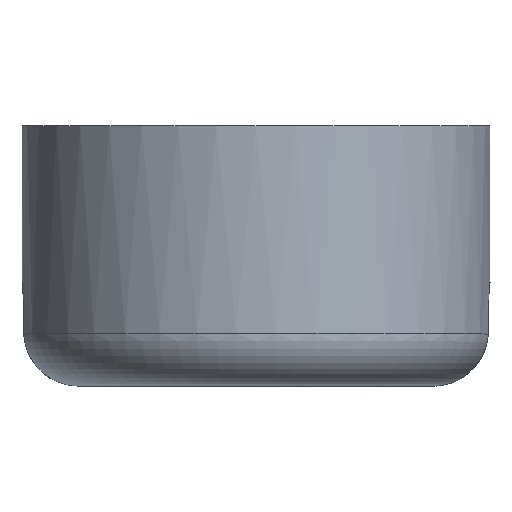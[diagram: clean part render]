
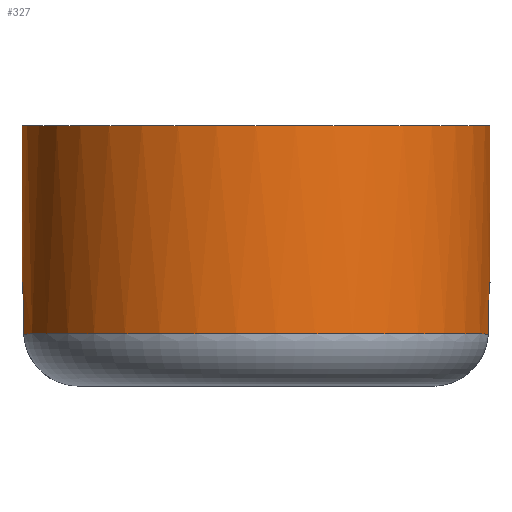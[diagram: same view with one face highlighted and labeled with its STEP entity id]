
A CAD part, top view. The second image highlights one B-rep face of the part: STEP entity #327.
In plain terms, the highlighted cylindrical face has radius 0.9 mm (diameter 1.8 mm), a full revolution.
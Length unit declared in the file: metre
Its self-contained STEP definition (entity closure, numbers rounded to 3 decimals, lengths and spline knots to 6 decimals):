
#12=CYLINDRICAL_SURFACE('',#469,0.0009);
#13=ELLIPSE('',#454,0.005183,0.0009);
#14=ELLIPSE('',#456,0.005183,0.0009);
#15=ELLIPSE('',#466,0.005183,0.0009);
#16=ELLIPSE('',#468,0.005183,0.0009);
#88=CIRCLE('',#446,0.0009);
#89=CIRCLE('',#458,0.0009);
#90=CIRCLE('',#459,0.0009);
#91=CIRCLE('',#462,0.0009);
#93=CIRCLE('',#470,0.0009);
#167=ORIENTED_EDGE('',*,*,#216,.F.);
#168=ORIENTED_EDGE('',*,*,#207,.F.);
#169=ORIENTED_EDGE('',*,*,#222,.F.);
#170=ORIENTED_EDGE('',*,*,#220,.F.);
#171=ORIENTED_EDGE('',*,*,#213,.T.);
#172=ORIENTED_EDGE('',*,*,#219,.F.);
#173=ORIENTED_EDGE('',*,*,#183,.F.);
#174=ORIENTED_EDGE('',*,*,#206,.F.);
#175=ORIENTED_EDGE('',*,*,#211,.T.);
#183=EDGE_CURVE('',#226,#223,#88,.T.);
#206=EDGE_CURVE('',#243,#226,#13,.T.);
#207=EDGE_CURVE('',#244,#245,#14,.T.);
#211=EDGE_CURVE('',#243,#245,#89,.T.);
#213=EDGE_CURVE('',#248,#247,#90,.T.);
#216=EDGE_CURVE('',#249,#249,#91,.T.);
#219=EDGE_CURVE('',#223,#247,#15,.T.);
#220=EDGE_CURVE('',#248,#251,#16,.T.);
#222=EDGE_CURVE('',#251,#244,#93,.T.);
#223=VERTEX_POINT('',#564);
#226=VERTEX_POINT('',#572);
#243=VERTEX_POINT('',#619);
#244=VERTEX_POINT('',#623);
#245=VERTEX_POINT('',#624);
#247=VERTEX_POINT('',#635);
#248=VERTEX_POINT('',#637);
#249=VERTEX_POINT('',#643);
#251=VERTEX_POINT('',#652);
#271=EDGE_LOOP('',(#167));
#272=EDGE_LOOP('',(#168,#169,#170,#171,#172,#173,#174,#175));
#289=FACE_BOUND('',#271,.T.);
#290=FACE_BOUND('',#272,.T.);
#327=ADVANCED_FACE('',(#289,#290),#12,.T.);
#446=AXIS2_PLACEMENT_3D('',#573,#478,#479);
#454=AXIS2_PLACEMENT_3D('',#620,#516,#517);
#456=AXIS2_PLACEMENT_3D('',#622,#520,#521);
#458=AXIS2_PLACEMENT_3D('',#633,#526,#527);
#459=AXIS2_PLACEMENT_3D('',#636,#529,#530);
#462=AXIS2_PLACEMENT_3D('',#642,#537,#538);
#466=AXIS2_PLACEMENT_3D('',#649,#546,#547);
#468=AXIS2_PLACEMENT_3D('',#651,#550,#551);
#469=AXIS2_PLACEMENT_3D('',#657,#552,#553);
#470=AXIS2_PLACEMENT_3D('',#658,#554,#555);
#478=DIRECTION('',(0.,-1.,0.));
#479=DIRECTION('',(0.,0.,1.));
#516=DIRECTION('',(0.,-0.174,0.985));
#517=DIRECTION('',(0.,0.985,0.174));
#520=DIRECTION('',(0.,-0.174,-0.985));
#521=DIRECTION('',(0.,0.985,-0.174));
#526=DIRECTION('',(0.,1.,0.));
#527=DIRECTION('',(0.,0.,1.));
#529=DIRECTION('',(0.,1.,0.));
#530=DIRECTION('',(0.,0.,1.));
#537=DIRECTION('',(0.,1.,0.));
#538=DIRECTION('',(0.,0.,1.));
#546=DIRECTION('',(0.,-0.174,0.985));
#547=DIRECTION('',(0.,0.985,0.174));
#550=DIRECTION('',(0.,-0.174,-0.985));
#551=DIRECTION('',(0.,0.985,-0.174));
#552=DIRECTION('',(0.,1.,0.));
#553=DIRECTION('',(0.,0.,-1.));
#554=DIRECTION('',(0.,-1.,0.));
#555=DIRECTION('',(0.,0.,1.));
#564=CARTESIAN_POINT('',(-0.009007,-0.01035,-0.004465));
#572=CARTESIAN_POINT('',(-0.010793,-0.01035,-0.004465));
#573=CARTESIAN_POINT('',(-0.0099,-0.01035,-0.00435));
#619=CARTESIAN_POINT('',(-0.010796,-0.01015,-0.004429));
#620=CARTESIAN_POINT('',(-0.0099,-0.009699,-0.00435));
#622=CARTESIAN_POINT('',(-0.0099,-0.009699,-0.00435));
#623=CARTESIAN_POINT('',(-0.010793,-0.01035,-0.004235));
#624=CARTESIAN_POINT('',(-0.010796,-0.01015,-0.004271));
#633=CARTESIAN_POINT('',(-0.0099,-0.01015,-0.00435));
#635=CARTESIAN_POINT('',(-0.009004,-0.01015,-0.004429));
#636=CARTESIAN_POINT('',(-0.0099,-0.01015,-0.00435));
#637=CARTESIAN_POINT('',(-0.009004,-0.01015,-0.004271));
#642=CARTESIAN_POINT('',(-0.0099,-0.00955,-0.00435));
#643=CARTESIAN_POINT('',(-0.0099,-0.00955,-0.00345));
#649=CARTESIAN_POINT('',(-0.0099,-0.009699,-0.00435));
#651=CARTESIAN_POINT('',(-0.0099,-0.009699,-0.00435));
#652=CARTESIAN_POINT('',(-0.009007,-0.01035,-0.004235));
#657=CARTESIAN_POINT('',(-0.0099,-0.013096,-0.00435));
#658=CARTESIAN_POINT('',(-0.0099,-0.01035,-0.00435));
